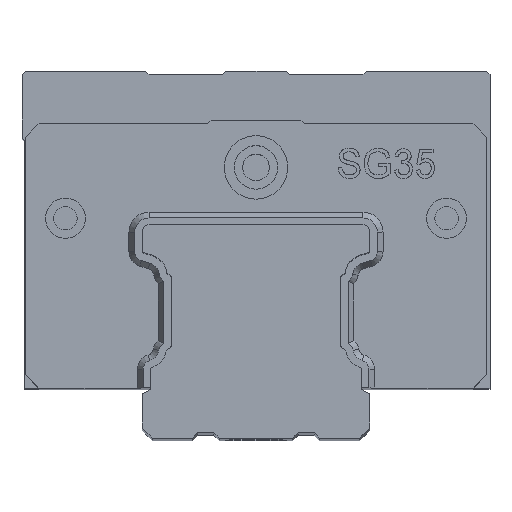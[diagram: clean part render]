
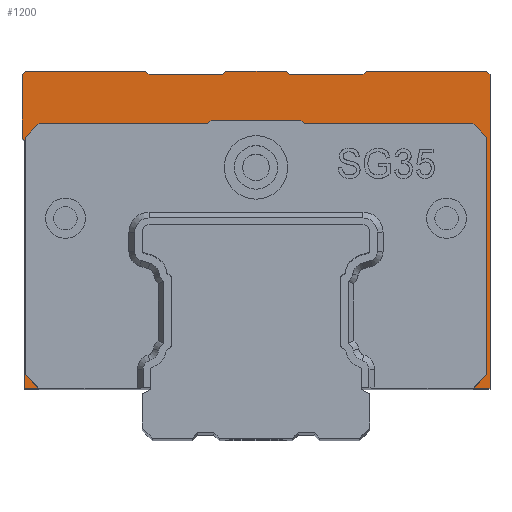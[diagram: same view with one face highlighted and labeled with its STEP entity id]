
A CAD part, top view. The second image highlights one B-rep face of the part: STEP entity #1200.
In plain terms, the highlighted planar face has unit normal (0, 0, 1).
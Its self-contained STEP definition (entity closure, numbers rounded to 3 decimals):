
#806=FACE_OUTER_BOUND('',#3393,.T.);
#1200=ADVANCED_FACE('',(#806),#1617,.F.);
#1617=PLANE('',#8476);
#1889=LINE('',#11153,#2513);
#1890=LINE('',#11156,#2514);
#1891=LINE('',#11158,#2515);
#1892=LINE('',#11160,#2516);
#1893=LINE('',#11162,#2517);
#1894=LINE('',#11164,#2518);
#1895=LINE('',#11166,#2519);
#1896=LINE('',#11168,#2520);
#1897=LINE('',#11170,#2521);
#1898=LINE('',#11172,#2522);
#1899=LINE('',#11174,#2523);
#1900=LINE('',#11176,#2524);
#1901=LINE('',#11178,#2525);
#1902=LINE('',#11180,#2526);
#1903=LINE('',#11182,#2527);
#1904=LINE('',#11184,#2528);
#1905=LINE('',#11186,#2529);
#1906=LINE('',#11188,#2530);
#1907=LINE('',#11190,#2531);
#1908=LINE('',#11192,#2532);
#1909=LINE('',#11194,#2533);
#1910=LINE('',#11196,#2534);
#1911=LINE('',#11198,#2535);
#1912=LINE('',#11200,#2536);
#1913=LINE('',#11202,#2537);
#1914=LINE('',#11204,#2538);
#1915=LINE('',#11206,#2539);
#1916=LINE('',#11208,#2540);
#2513=VECTOR('',#9276,1.);
#2514=VECTOR('',#9277,1.);
#2515=VECTOR('',#9278,1.);
#2516=VECTOR('',#9279,1.);
#2517=VECTOR('',#9280,1.);
#2518=VECTOR('',#9281,1.);
#2519=VECTOR('',#9282,1.);
#2520=VECTOR('',#9283,1.);
#2521=VECTOR('',#9284,1.);
#2522=VECTOR('',#9285,1.);
#2523=VECTOR('',#9286,1.);
#2524=VECTOR('',#9287,1.);
#2525=VECTOR('',#9288,1.);
#2526=VECTOR('',#9289,1.);
#2527=VECTOR('',#9290,1.);
#2528=VECTOR('',#9291,1.);
#2529=VECTOR('',#9292,1.);
#2530=VECTOR('',#9293,1.);
#2531=VECTOR('',#9294,1.);
#2532=VECTOR('',#9295,1.);
#2533=VECTOR('',#9296,1.);
#2534=VECTOR('',#9297,1.);
#2535=VECTOR('',#9298,1.);
#2536=VECTOR('',#9299,1.);
#2537=VECTOR('',#9300,1.);
#2538=VECTOR('',#9301,1.);
#2539=VECTOR('',#9302,1.);
#2540=VECTOR('',#9303,1.);
#3393=EDGE_LOOP('',(#4179,#4180,#4181,#4182,#4183,#4184,#4185,#4186,#4187,
#4188,#4189,#4190,#4191,#4192,#4193,#4194,#4195,#4196,#4197,#4198,#4199,
#4200,#4201,#4202,#4203,#4204,#4205,#4206));
#4179=ORIENTED_EDGE('',*,*,#7119,.F.);
#4180=ORIENTED_EDGE('',*,*,#7120,.T.);
#4181=ORIENTED_EDGE('',*,*,#7121,.T.);
#4182=ORIENTED_EDGE('',*,*,#7122,.T.);
#4183=ORIENTED_EDGE('',*,*,#7123,.T.);
#4184=ORIENTED_EDGE('',*,*,#7124,.T.);
#4185=ORIENTED_EDGE('',*,*,#7125,.T.);
#4186=ORIENTED_EDGE('',*,*,#7126,.T.);
#4187=ORIENTED_EDGE('',*,*,#7127,.T.);
#4188=ORIENTED_EDGE('',*,*,#7128,.T.);
#4189=ORIENTED_EDGE('',*,*,#7129,.T.);
#4190=ORIENTED_EDGE('',*,*,#7130,.T.);
#4191=ORIENTED_EDGE('',*,*,#7131,.T.);
#4192=ORIENTED_EDGE('',*,*,#7132,.T.);
#4193=ORIENTED_EDGE('',*,*,#7133,.T.);
#4194=ORIENTED_EDGE('',*,*,#7134,.T.);
#4195=ORIENTED_EDGE('',*,*,#7135,.F.);
#4196=ORIENTED_EDGE('',*,*,#7136,.T.);
#4197=ORIENTED_EDGE('',*,*,#7137,.F.);
#4198=ORIENTED_EDGE('',*,*,#7138,.F.);
#4199=ORIENTED_EDGE('',*,*,#7139,.F.);
#4200=ORIENTED_EDGE('',*,*,#7140,.F.);
#4201=ORIENTED_EDGE('',*,*,#7141,.T.);
#4202=ORIENTED_EDGE('',*,*,#7142,.T.);
#4203=ORIENTED_EDGE('',*,*,#7143,.T.);
#4204=ORIENTED_EDGE('',*,*,#7144,.F.);
#4205=ORIENTED_EDGE('',*,*,#7145,.F.);
#4206=ORIENTED_EDGE('',*,*,#7146,.F.);
#6274=VERTEX_POINT('',#11154);
#6275=VERTEX_POINT('',#11155);
#6276=VERTEX_POINT('',#11157);
#6277=VERTEX_POINT('',#11159);
#6278=VERTEX_POINT('',#11161);
#6279=VERTEX_POINT('',#11163);
#6280=VERTEX_POINT('',#11165);
#6281=VERTEX_POINT('',#11167);
#6282=VERTEX_POINT('',#11169);
#6283=VERTEX_POINT('',#11171);
#6284=VERTEX_POINT('',#11173);
#6285=VERTEX_POINT('',#11175);
#6286=VERTEX_POINT('',#11177);
#6287=VERTEX_POINT('',#11179);
#6288=VERTEX_POINT('',#11181);
#6289=VERTEX_POINT('',#11183);
#6290=VERTEX_POINT('',#11185);
#6291=VERTEX_POINT('',#11187);
#6292=VERTEX_POINT('',#11189);
#6293=VERTEX_POINT('',#11191);
#6294=VERTEX_POINT('',#11193);
#6295=VERTEX_POINT('',#11195);
#6296=VERTEX_POINT('',#11197);
#6297=VERTEX_POINT('',#11199);
#6298=VERTEX_POINT('',#11201);
#6299=VERTEX_POINT('',#11203);
#6300=VERTEX_POINT('',#11205);
#6301=VERTEX_POINT('',#11207);
#7119=EDGE_CURVE('',#6274,#6275,#1889,.T.);
#7120=EDGE_CURVE('',#6274,#6276,#1890,.T.);
#7121=EDGE_CURVE('',#6276,#6277,#1891,.T.);
#7122=EDGE_CURVE('',#6277,#6278,#1892,.T.);
#7123=EDGE_CURVE('',#6278,#6279,#1893,.T.);
#7124=EDGE_CURVE('',#6279,#6280,#1894,.T.);
#7125=EDGE_CURVE('',#6280,#6281,#1895,.T.);
#7126=EDGE_CURVE('',#6281,#6282,#1896,.T.);
#7127=EDGE_CURVE('',#6282,#6283,#1897,.T.);
#7128=EDGE_CURVE('',#6283,#6284,#1898,.T.);
#7129=EDGE_CURVE('',#6284,#6285,#1899,.T.);
#7130=EDGE_CURVE('',#6285,#6286,#1900,.T.);
#7131=EDGE_CURVE('',#6286,#6287,#1901,.T.);
#7132=EDGE_CURVE('',#6287,#6288,#1902,.T.);
#7133=EDGE_CURVE('',#6288,#6289,#1903,.T.);
#7134=EDGE_CURVE('',#6289,#6290,#1904,.T.);
#7135=EDGE_CURVE('',#6291,#6290,#1905,.T.);
#7136=EDGE_CURVE('',#6291,#6292,#1906,.T.);
#7137=EDGE_CURVE('',#6293,#6292,#1907,.T.);
#7138=EDGE_CURVE('',#6294,#6293,#1908,.T.);
#7139=EDGE_CURVE('',#6295,#6294,#1909,.T.);
#7140=EDGE_CURVE('',#6296,#6295,#1910,.T.);
#7141=EDGE_CURVE('',#6296,#6297,#1911,.T.);
#7142=EDGE_CURVE('',#6297,#6298,#1912,.T.);
#7143=EDGE_CURVE('',#6298,#6299,#1913,.T.);
#7144=EDGE_CURVE('',#6300,#6299,#1914,.T.);
#7145=EDGE_CURVE('',#6301,#6300,#1915,.T.);
#7146=EDGE_CURVE('',#6275,#6301,#1916,.T.);
#8476=AXIS2_PLACEMENT_3D('',#11209,#9304,#9305);
#9276=DIRECTION('',(0.707,0.707,0.));
#9277=DIRECTION('',(1.,0.,0.));
#9278=DIRECTION('',(0.,1.,0.));
#9279=DIRECTION('',(-0.707,0.707,0.));
#9280=DIRECTION('',(-1.,0.,0.));
#9281=DIRECTION('',(-0.707,-0.707,0.));
#9282=DIRECTION('',(-1.,0.,0.));
#9283=DIRECTION('',(-0.707,0.707,0.));
#9284=DIRECTION('',(-1.,0.,0.));
#9285=DIRECTION('',(-0.707,-0.707,0.));
#9286=DIRECTION('',(-1.,0.,0.));
#9287=DIRECTION('',(-0.707,0.707,0.));
#9288=DIRECTION('',(-1.,0.,0.));
#9289=DIRECTION('',(-0.707,-0.707,0.));
#9290=DIRECTION('',(0.,-1.,0.));
#9291=DIRECTION('',(0.707,-0.707,0.));
#9292=DIRECTION('',(0.,1.,0.));
#9293=DIRECTION('',(1.,0.,0.));
#9294=DIRECTION('',(0.707,-0.707,0.));
#9295=DIRECTION('',(0.,-1.,0.));
#9296=DIRECTION('',(-0.707,-0.707,0.));
#9297=DIRECTION('',(-1.,0.,0.));
#9298=DIRECTION('',(0.707,0.707,0.));
#9299=DIRECTION('',(1.,0.,0.));
#9300=DIRECTION('',(0.707,-0.707,0.));
#9301=DIRECTION('',(-1.,0.,0.));
#9302=DIRECTION('',(-0.707,0.707,0.));
#9303=DIRECTION('',(0.,1.,0.));
#9304=DIRECTION('',(0.,0.,-1.));
#9305=DIRECTION('',(1.,0.,0.));
#11153=CARTESIAN_POINT('',(-15.462,-50.648,225.013));
#11154=CARTESIAN_POINT('',(28.703,-6.483,225.013));
#11155=CARTESIAN_POINT('',(30.703,-4.483,225.013));
#11156=CARTESIAN_POINT('',(-38.397,-6.483,225.013));
#11157=CARTESIAN_POINT('',(31.203,-6.483,225.013));
#11158=CARTESIAN_POINT('',(31.203,-6.483,225.013));
#11159=CARTESIAN_POINT('',(31.203,40.417,225.013));
#11160=CARTESIAN_POINT('',(31.203,40.417,225.013));
#11161=CARTESIAN_POINT('',(30.703,40.917,225.013));
#11162=CARTESIAN_POINT('',(30.703,40.917,225.013));
#11163=CARTESIAN_POINT('',(12.703,40.917,225.013));
#11164=CARTESIAN_POINT('',(12.703,40.917,225.013));
#11165=CARTESIAN_POINT('',(12.203,40.417,225.013));
#11166=CARTESIAN_POINT('',(12.203,40.417,225.013));
#11167=CARTESIAN_POINT('',(1.203,40.417,225.013));
#11168=CARTESIAN_POINT('',(1.203,40.417,225.013));
#11169=CARTESIAN_POINT('',(0.703,40.917,225.013));
#11170=CARTESIAN_POINT('',(0.703,40.917,225.013));
#11171=CARTESIAN_POINT('',(-8.297,40.917,225.013));
#11172=CARTESIAN_POINT('',(-8.297,40.917,225.013));
#11173=CARTESIAN_POINT('',(-8.797,40.417,225.013));
#11174=CARTESIAN_POINT('',(-8.797,40.417,225.013));
#11175=CARTESIAN_POINT('',(-19.797,40.417,225.013));
#11176=CARTESIAN_POINT('',(-19.797,40.417,225.013));
#11177=CARTESIAN_POINT('',(-20.297,40.917,225.013));
#11178=CARTESIAN_POINT('',(-20.297,40.917,225.013));
#11179=CARTESIAN_POINT('',(-38.297,40.917,225.013));
#11180=CARTESIAN_POINT('',(-38.297,40.917,225.013));
#11181=CARTESIAN_POINT('',(-38.797,40.417,225.013));
#11182=CARTESIAN_POINT('',(-38.797,40.417,225.013));
#11183=CARTESIAN_POINT('',(-38.797,30.917,225.013));
#11184=CARTESIAN_POINT('',(-38.797,30.917,225.013));
#11185=CARTESIAN_POINT('',(-38.397,30.517,225.013));
#11186=CARTESIAN_POINT('',(-38.397,-6.483,225.013));
#11187=CARTESIAN_POINT('',(-38.397,-6.483,225.013));
#11188=CARTESIAN_POINT('',(-38.397,-6.483,225.013));
#11189=CARTESIAN_POINT('',(-36.297,-6.483,225.013));
#11190=CARTESIAN_POINT('',(-30.06,-12.721,225.013));
#11191=CARTESIAN_POINT('',(-38.297,-4.483,225.013));
#11192=CARTESIAN_POINT('',(-38.297,13.541,225.013));
#11193=CARTESIAN_POINT('',(-38.297,31.017,225.013));
#11194=CARTESIAN_POINT('',(-29.785,39.529,225.013));
#11195=CARTESIAN_POINT('',(-36.248,33.066,225.013));
#11196=CARTESIAN_POINT('',(-3.797,33.066,225.013));
#11197=CARTESIAN_POINT('',(-11.025,33.066,225.013));
#11198=CARTESIAN_POINT('',(-17.173,26.917,225.013));
#11199=CARTESIAN_POINT('',(-10.525,33.566,225.013));
#11200=CARTESIAN_POINT('',(-3.797,33.566,225.013));
#11201=CARTESIAN_POINT('',(2.93,33.566,225.013));
#11202=CARTESIAN_POINT('',(9.579,26.917,225.013));
#11203=CARTESIAN_POINT('',(3.43,33.066,225.013));
#11204=CARTESIAN_POINT('',(-3.797,33.066,225.013));
#11205=CARTESIAN_POINT('',(28.654,33.066,225.013));
#11206=CARTESIAN_POINT('',(22.19,39.529,225.013));
#11207=CARTESIAN_POINT('',(30.703,31.017,225.013));
#11208=CARTESIAN_POINT('',(30.703,13.541,225.013));
#11209=CARTESIAN_POINT('',(34.703,-8.853,225.013));
